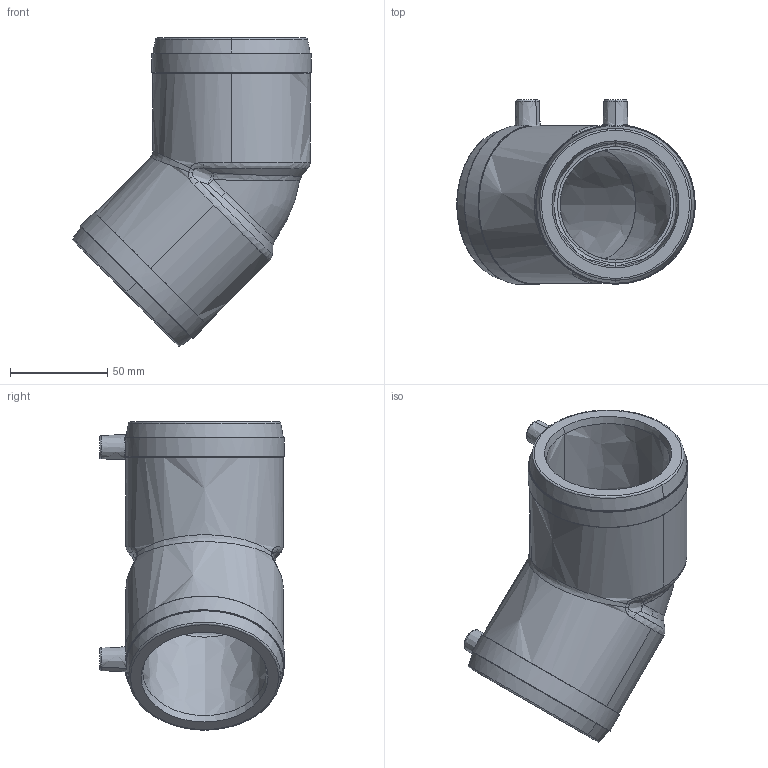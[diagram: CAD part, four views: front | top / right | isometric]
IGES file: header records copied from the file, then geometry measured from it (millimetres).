
Start section:  PTC IGES file: w45_d063_01.igs
Global section: file name: w45_d063_01.igs; native system: Pro/ENGINEER by Parametric Technology Corporation; preprocessor: 2011490; author: mtunjic; organization: Unknown; date: 20130812.112739; units: millimetre
Bounding box: 122.77 x 95.05 x 158.72 mm (x, y, z)
Surface area: 73769.9 mm2 (no closed solid volume)
Topology: 0 solids, 0 shells, 216 faces, 1078 edges, 1078 vertices
Faces by surface type: bspline 216
